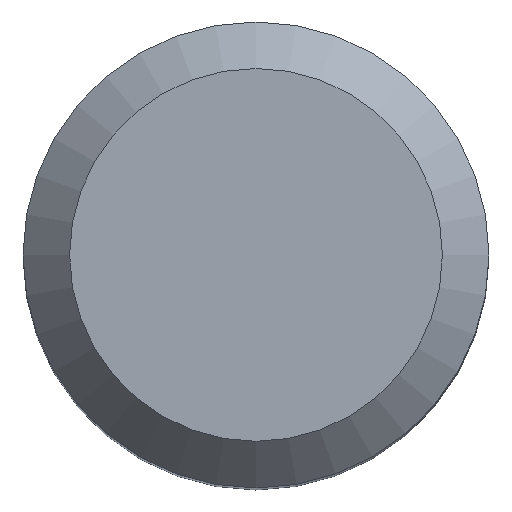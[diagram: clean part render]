
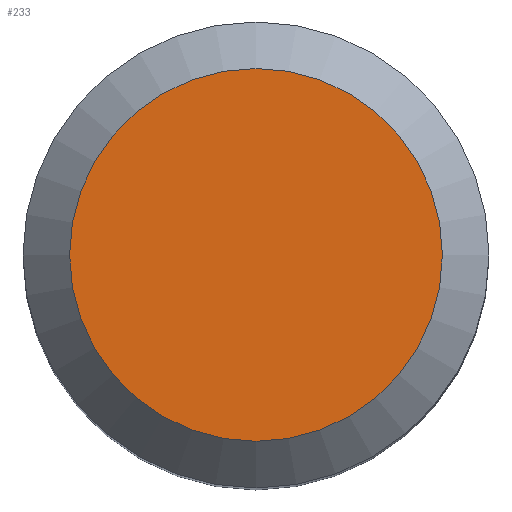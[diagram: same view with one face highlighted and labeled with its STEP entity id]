
A CAD part, top view. The second image highlights one B-rep face of the part: STEP entity #233.
In plain terms, the highlighted planar face has unit normal (0, 0, 1).
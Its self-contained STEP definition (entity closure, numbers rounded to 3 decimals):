
#84 = CONICAL_SURFACE('',#85,1.5,0.785);
#85 = AXIS2_PLACEMENT_3D('',#86,#87,#88);
#86 = CARTESIAN_POINT('',(0.,0.,7.7));
#87 = DIRECTION('',(-0.,-0.,-1.));
#88 = DIRECTION('',(1.,0.,0.));
#181 = VERTEX_POINT('',#182);
#182 = CARTESIAN_POINT('',(1.2,0.,8.));
#203 = EDGE_CURVE('',#181,#181,#204,.T.);
#204 = SURFACE_CURVE('',#205,(#210,#217),.PCURVE_S1.);
#205 = CIRCLE('',#206,1.2);
#206 = AXIS2_PLACEMENT_3D('',#207,#208,#209);
#207 = CARTESIAN_POINT('',(0.,0.,8.));
#208 = DIRECTION('',(0.,0.,1.));
#209 = DIRECTION('',(1.,0.,-0.));
#210 = PCURVE('',#84,#211);
#211 = DEFINITIONAL_REPRESENTATION('',(#212),#216);
#212 = LINE('',#213,#214);
#213 = CARTESIAN_POINT('',(-0.,-0.3));
#214 = VECTOR('',#215,1.);
#215 = DIRECTION('',(-1.,-0.));
#216 = ( GEOMETRIC_REPRESENTATION_CONTEXT(2) 
PARAMETRIC_REPRESENTATION_CONTEXT() REPRESENTATION_CONTEXT('2D SPACE',''
  ) );
#217 = PCURVE('',#218,#223);
#218 = PLANE('',#219);
#219 = AXIS2_PLACEMENT_3D('',#220,#221,#222);
#220 = CARTESIAN_POINT('',(0.,0.,8.));
#221 = DIRECTION('',(0.,0.,1.));
#222 = DIRECTION('',(1.,0.,-0.));
#223 = DEFINITIONAL_REPRESENTATION('',(#224),#228);
#224 = CIRCLE('',#225,1.2);
#225 = AXIS2_PLACEMENT_2D('',#226,#227);
#226 = CARTESIAN_POINT('',(0.,0.));
#227 = DIRECTION('',(1.,0.));
#228 = ( GEOMETRIC_REPRESENTATION_CONTEXT(2) 
PARAMETRIC_REPRESENTATION_CONTEXT() REPRESENTATION_CONTEXT('2D SPACE',''
  ) );
#233 = ADVANCED_FACE('',(#234),#218,.T.);
#234 = FACE_BOUND('',#235,.T.);
#235 = EDGE_LOOP('',(#236));
#236 = ORIENTED_EDGE('',*,*,#203,.T.);
